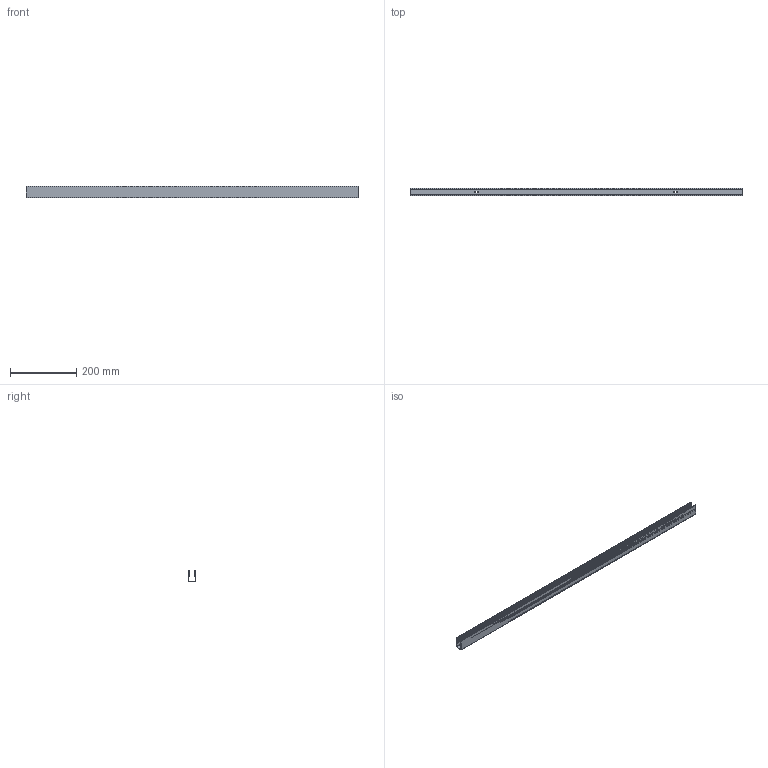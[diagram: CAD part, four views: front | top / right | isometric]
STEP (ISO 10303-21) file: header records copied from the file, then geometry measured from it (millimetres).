
FILE_DESCRIPTION(/* description */ (''),/* implementation_level */ '2;1');
FILE_NAME(/* name */ 'NF_1616_STRAIGHT_PROFILE_CABLE_DUCT_L1000_R02.step',/* time_stamp */ '2026-07-20T17:15:12+02:00',/* author */ (''),/* organization */ (''),/* preprocessor_version */ 'ST-DEVELOPER v20.1',/* originating_system */ 'Autodesk Translation Framework v15.8.0.0',/* authorisation */ '');
FILE_SCHEMA (('AUTOMOTIVE_DESIGN { 1 0 10303 214 3 1 1 }'));
Length unit declared in the file: millimetre
Products named in the file (1): 2026-07-19-14-32-21-896
Bounding box: 1000 x 22 x 33.9 mm (x, y, z)
Volume: 176777.5 mm3; surface area: 271669 mm2
Topology: 3 solids, 3 shells, 966 faces, 2880 edges, 1920 vertices
Faces by surface type: plane 884, bspline 64, cylinder 18
Entity records: 32995 total; most frequent: CARTESIAN_POINT 7391, ORIENTED_EDGE 5760, DIRECTION 4594, EDGE_CURVE 2880, LINE 2716, VECTOR 2716, VERTEX_POINT 1920, EDGE_LOOP 970
